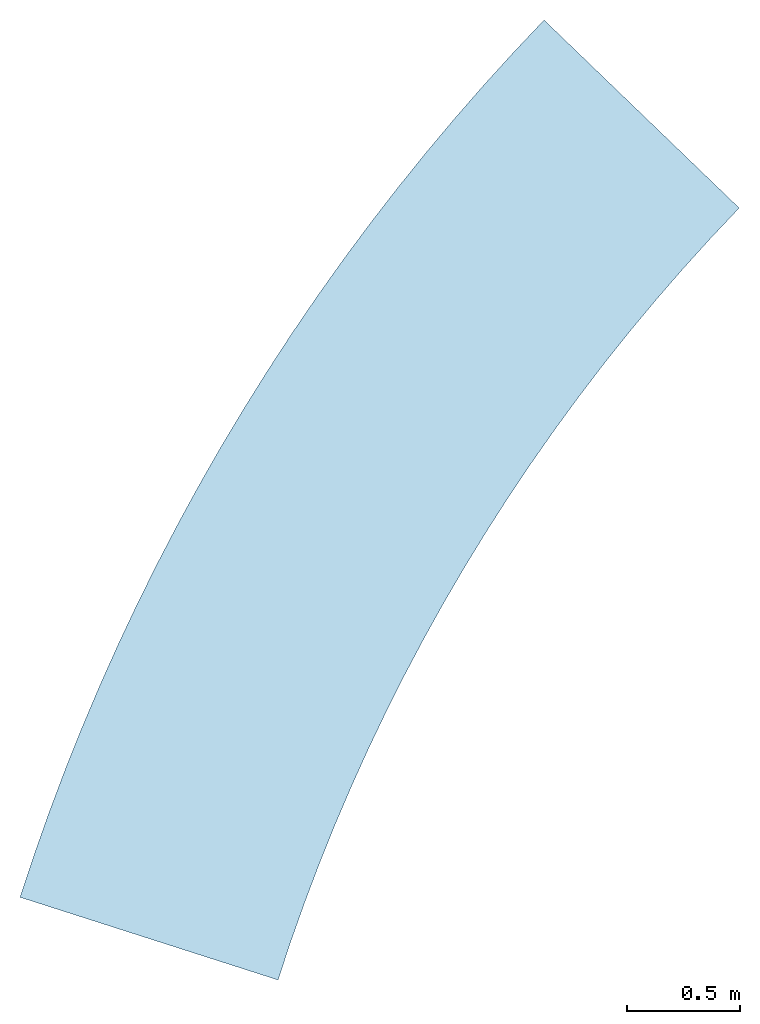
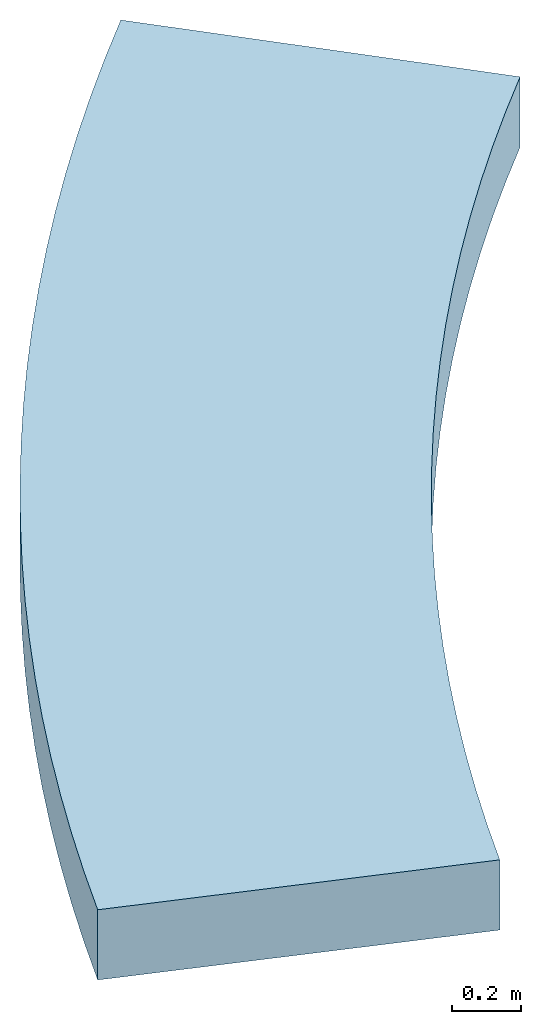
# One storey: 1 slab.
"""IFC2X3 building model written with IfcOpenShell, lengths in centimetres."""

from ifc_helpers import new_model, entity, si_unit, converted_unit, derived_unit, direction, frame, frame_2d, origin, place, context, subcontext, project, spatial, polyline, circle_curve, parameter, trimmed, segment, composite_curve, outline, extrude, material, layer, layer_set, layer_usage, element, save


model = new_model("IFC2X3")

# Units and contexts
model_context = context("Model", 3, precision=0.001, world=origin(), true_north=direction((6.12303176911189e-17, 1.0)))
body_context = subcontext(model_context, "Body", "Model", "MODEL_VIEW")
ifc_project = project(units=[si_unit("LENGTHUNIT", "METRE", prefix="CENTI"), si_unit("AREAUNIT", "SQUARE_METRE"), si_unit("VOLUMEUNIT", "CUBIC_METRE"), converted_unit("PLANEANGLEUNIT", "DEGREE", entity("IfcRatioMeasure", 0.0174532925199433), si_unit("PLANEANGLEUNIT", "RADIAN"), dimensions=[0, 0, 0, 0, 0, 0, 0]), si_unit("MASSUNIT", "GRAM", prefix="KILO"), derived_unit("MASSDENSITYUNIT", [(si_unit("MASSUNIT", "GRAM", prefix="KILO"), 1), (si_unit("LENGTHUNIT", "METRE"), -3)]), si_unit("TIMEUNIT", "SECOND"), si_unit("FREQUENCYUNIT", "HERTZ"), si_unit("THERMODYNAMICTEMPERATUREUNIT", "DEGREE_CELSIUS"), derived_unit("THERMALTRANSMITTANCEUNIT", [(si_unit("MASSUNIT", "GRAM", prefix="KILO"), 1), (si_unit("THERMODYNAMICTEMPERATUREUNIT", "KELVIN"), -1), (si_unit("TIMEUNIT", "SECOND"), -3)]), derived_unit("VOLUMETRICFLOWRATEUNIT", [(si_unit("LENGTHUNIT", "METRE"), 3), (si_unit("TIMEUNIT", "SECOND"), -1)]), si_unit("ELECTRICCURRENTUNIT", "AMPERE"), si_unit("ELECTRICVOLTAGEUNIT", "VOLT"), si_unit("POWERUNIT", "WATT"), si_unit("FORCEUNIT", "NEWTON", prefix="KILO"), si_unit("ILLUMINANCEUNIT", "LUX"), si_unit("LUMINOUSFLUXUNIT", "LUMEN"), si_unit("LUMINOUSINTENSITYUNIT", "CANDELA"), derived_unit("USERDEFINED", [(si_unit("MASSUNIT", "GRAM", prefix="KILO"), -1), (si_unit("LENGTHUNIT", "METRE"), -2), (si_unit("TIMEUNIT", "SECOND"), 3), (si_unit("LUMINOUSFLUXUNIT", "LUMEN"), 1)]), derived_unit("LINEARVELOCITYUNIT", [(si_unit("LENGTHUNIT", "METRE"), 1), (si_unit("TIMEUNIT", "SECOND"), -1)]), si_unit("PRESSUREUNIT", "PASCAL"), derived_unit("USERDEFINED", [(si_unit("LENGTHUNIT", "METRE"), -2), (si_unit("MASSUNIT", "GRAM", prefix="KILO"), 1), (si_unit("TIMEUNIT", "SECOND"), -2)])], contexts=[model_context])

# Site, building, storey
site_placement = place(None, origin())
site = spatial("IfcSite", under=ifc_project, at=site_placement, Name="Default", CompositionType="ELEMENT")
building_placement = place(site_placement, origin())
building = spatial("IfcBuilding", under=site, at=building_placement, CompositionType="ELEMENT")
storey_placement = place(building_placement, frame((0.0, 0.0, -340.0)))
storey = spatial("IfcBuildingStorey", under=building, at=storey_placement, Name="Haut escalier", CompositionType="ELEMENT", Elevation=-340.0)

# Slab
ifc_material = material(Name="Béton, coulé sur place")
ifc_layer = layer(ifc_material, 25.0)
ifc_layer_set = layer_set([ifc_layer], Name="Sol:Béton - 250mm JBTP")
ifc_layer_usage = layer_usage(ifc_layer_set, "AXIS3", "POSITIVE", 0.0)
slab_placement = place(storey_placement, origin())
element("IfcSlab", 1, at=slab_placement, inside=storey, material=ifc_layer_usage, Name="Sol:Béton - 250mm JBTP", ObjectType="Sol:Béton - 250mm JBTP", PredefinedType="FLOOR", context=body_context, shape_type="SweptSolid", body=[
    extrude(outline(composite_curve([segment(polyline([(-11.8725697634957, -207.186974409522), (108.134998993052, -207.185644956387)]), True, "CONTINUOUS"), segment(trimmed(circle_curve(frame_2d((-891.865000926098, -207.196723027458), x_axis=(0.897589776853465, 0.440831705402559)), 999.999999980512), [parameter(333.843675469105)], [parameter(0.0)], True, "PARAMETER"), True, "CONTINUOUS"), segment(polyline([(5.72477590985, 233.63498236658), (-101.9872051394, 180.737636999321)]), True, "CONTINUOUS"), segment(trimmed(circle_curve(frame_2d((-891.896946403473, -207.186974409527), x_axis=(1.0, 0.0)), 880.024376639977), [parameter(0.0)], [parameter(26.1556510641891)], True, "PARAMETER"), False, "CONTINUOUS")], self_intersect=False)), frame((-785.338592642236, 461.54287551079, 0.0), z_axis=(0.0, 0.0, 1.0), x_axis=(-0.720160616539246, 0.693807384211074, 0.0)), (0.0, 0.0, -1.0), 25.0),
])

save(model, "model.ifc")
